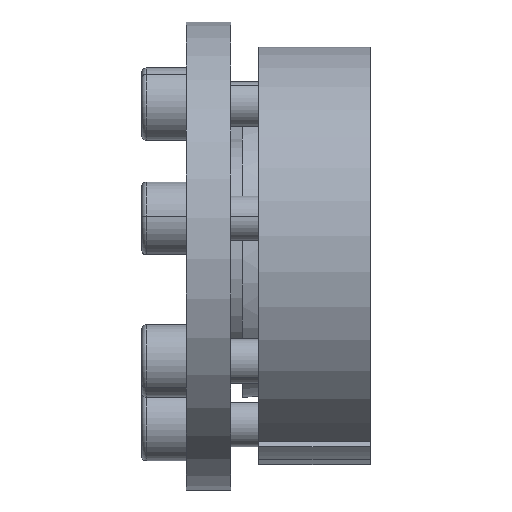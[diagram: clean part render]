
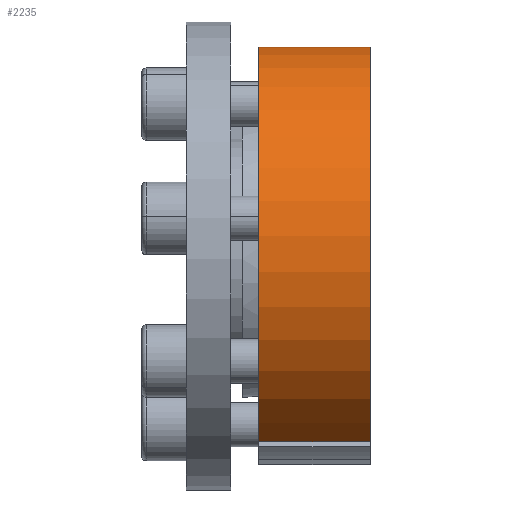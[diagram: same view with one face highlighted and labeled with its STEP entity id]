
A CAD part, front view. The second image highlights one B-rep face of the part: STEP entity #2235.
In plain terms, the highlighted cylindrical face has radius 37.5 mm (diameter 75 mm), a partial arc.
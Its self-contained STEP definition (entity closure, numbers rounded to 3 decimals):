
#22 = DIRECTION ( 'NONE',  ( 1., 0., 0. ) ) ;
#64 = CARTESIAN_POINT ( 'NONE',  ( -15.052, -25.13, -33.333 ) ) ;
#72 = VERTEX_POINT ( 'NONE', #5645 ) ;
#390 = AXIS2_PLACEMENT_3D ( 'NONE', #5693, #5745, #5795 ) ;
#450 = DIRECTION ( 'NONE',  ( 0., -0.223, -0.975 ) ) ;
#531 = CARTESIAN_POINT ( 'NONE',  ( -15.052, 0.383, 36.566 ) ) ;
#668 = AXIS2_PLACEMENT_3D ( 'NONE', #5829, #1245, #5069 ) ;
#875 = FACE_OUTER_BOUND ( 'NONE', #2654, .T. ) ;
#999 = DIRECTION ( 'NONE',  ( -1., 0., 0. ) ) ;
#1245 = DIRECTION ( 'NONE',  ( -1., 0., 0. ) ) ;
#1271 = DIRECTION ( 'NONE',  ( -1., 0., 0. ) ) ;
#1427 = VERTEX_POINT ( 'NONE', #5770 ) ;
#1500 = ORIENTED_EDGE ( 'NONE', *, *, #3170, .T. ) ;
#1551 = VECTOR ( 'NONE', #999, 1000. ) ;
#1578 = EDGE_CURVE ( 'NONE', #2503, #72, #3576, .T. ) ;
#1702 = LINE ( 'NONE', #531, #1551 ) ;
#1718 = CARTESIAN_POINT ( 'NONE',  ( 4.948, -7.962, 0.006 ) ) ;
#1798 = VERTEX_POINT ( 'NONE', #2511 ) ;
#1925 = EDGE_CURVE ( 'NONE', #1427, #1798, #3846, .T. ) ;
#2235 = ADVANCED_FACE ( 'NONE', ( #875 ), #5325, .T. ) ;
#2451 = VECTOR ( 'NONE', #22, 1000. ) ;
#2503 = VERTEX_POINT ( 'NONE', #5398 ) ;
#2511 = CARTESIAN_POINT ( 'NONE',  ( 4.948, 0.383, 36.566 ) ) ;
#2654 = EDGE_LOOP ( 'NONE', ( #5020, #5563, #4233, #1500 ) ) ;
#3170 = EDGE_CURVE ( 'NONE', #2503, #1427, #3693, .T. ) ;
#3576 = CIRCLE ( 'NONE', #390, 37.5 ) ;
#3693 = LINE ( 'NONE', #64, #2451 ) ;
#3698 = AXIS2_PLACEMENT_3D ( 'NONE', #1718, #1271, #450 ) ;
#3846 = CIRCLE ( 'NONE', #3698, 37.5 ) ;
#4125 = EDGE_CURVE ( 'NONE', #1798, #72, #1702, .T. ) ;
#4233 = ORIENTED_EDGE ( 'NONE', *, *, #1578, .F. ) ;
#5020 = ORIENTED_EDGE ( 'NONE', *, *, #1925, .T. ) ;
#5069 = DIRECTION ( 'NONE',  ( 0., -0.223, -0.975 ) ) ;
#5325 = CYLINDRICAL_SURFACE ( 'NONE', #668, 37.5 ) ;
#5398 = CARTESIAN_POINT ( 'NONE',  ( -15.052, -25.13, -33.333 ) ) ;
#5563 = ORIENTED_EDGE ( 'NONE', *, *, #4125, .T. ) ;
#5645 = CARTESIAN_POINT ( 'NONE',  ( -15.052, 0.383, 36.566 ) ) ;
#5693 = CARTESIAN_POINT ( 'NONE',  ( -15.052, -7.962, 0.006 ) ) ;
#5745 = DIRECTION ( 'NONE',  ( -1., 0., 0. ) ) ;
#5770 = CARTESIAN_POINT ( 'NONE',  ( 4.948, -25.13, -33.333 ) ) ;
#5795 = DIRECTION ( 'NONE',  ( 0., -0.223, -0.975 ) ) ;
#5829 = CARTESIAN_POINT ( 'NONE',  ( -15.052, -7.962, 0.006 ) ) ;
